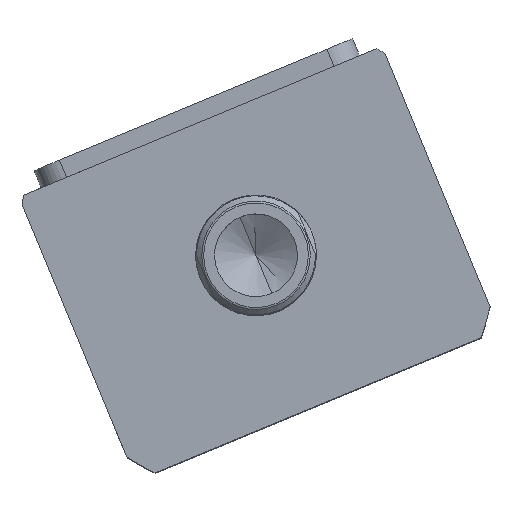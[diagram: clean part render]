
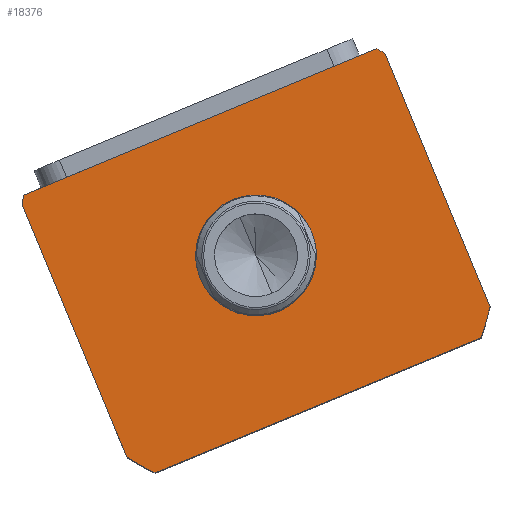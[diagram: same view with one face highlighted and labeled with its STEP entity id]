
A CAD part, top view. The second image highlights one B-rep face of the part: STEP entity #18376.
In plain terms, the highlighted planar face has unit normal (0, 0, 1) as drawn and (0, 0, -1) by its records, which use the part's own axes.
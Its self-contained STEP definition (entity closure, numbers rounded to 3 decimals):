
#214 = ORIENTED_EDGE ( 'NONE', *, *, #1257, .T. ) ;
#465 = FACE_OUTER_BOUND ( 'NONE', #5502, .T. ) ;
#472 = VERTEX_POINT ( 'NONE', #8439 ) ;
#589 = PLANE ( 'NONE',  #7360 ) ;
#685 = CIRCLE ( 'NONE', #1870, 17.5 ) ;
#1050 = AXIS2_PLACEMENT_3D ( 'NONE', #7455, #17644, #8904 ) ;
#1064 = DIRECTION ( 'NONE',  ( 0., -1., 0. ) ) ;
#1067 = CARTESIAN_POINT ( 'NONE',  ( 57., -37.265, 0. ) ) ;
#1170 = VECTOR ( 'NONE', #1064, 1000. ) ;
#1194 = VERTEX_POINT ( 'NONE', #8016 ) ;
#1257 = EDGE_CURVE ( 'NONE', #1194, #2935, #685, .T. ) ;
#1400 = CIRCLE ( 'NONE', #9366, 69.5 ) ;
#1815 = EDGE_CURVE ( 'NONE', #2935, #1194, #9454, .T. ) ;
#1832 = VERTEX_POINT ( 'NONE', #6423 ) ;
#1870 = AXIS2_PLACEMENT_3D ( 'NONE', #6103, #10329, #10650 ) ;
#1896 = EDGE_CURVE ( 'NONE', #1832, #8740, #9919, .T. ) ;
#1944 = ORIENTED_EDGE ( 'NONE', *, *, #1815, .T. ) ;
#2047 = CARTESIAN_POINT ( 'NONE',  ( 0., 2.5, 0. ) ) ;
#2067 = DIRECTION ( 'NONE',  ( 0., 0., 1. ) ) ;
#2362 = CARTESIAN_POINT ( 'NONE',  ( -57., 44.5, 0. ) ) ;
#2935 = VERTEX_POINT ( 'NONE', #6370 ) ;
#3387 = ORIENTED_EDGE ( 'NONE', *, *, #16712, .F. ) ;
#3487 = AXIS2_PLACEMENT_3D ( 'NONE', #6302, #6624, #6877 ) ;
#3754 = DIRECTION ( 'NONE',  ( 0., 1., 0. ) ) ;
#3856 = DIRECTION ( 'NONE',  ( 1., 0., 0. ) ) ;
#4406 = FACE_BOUND ( 'NONE', #9424, .T. ) ;
#4617 = LINE ( 'NONE', #9672, #1170 ) ;
#4628 = ORIENTED_EDGE ( 'NONE', *, *, #7647, .F. ) ;
#4924 = AXIS2_PLACEMENT_3D ( 'NONE', #16667, #7940, #18157 ) ;
#5104 = CIRCLE ( 'NONE', #1050, 69.5 ) ;
#5456 = AXIS2_PLACEMENT_3D ( 'NONE', #2047, #16575, #3856 ) ;
#5502 = EDGE_LOOP ( 'NONE', ( #14974, #10385, #15773, #3387, #17870, #4628, #8946, #17674 ) ) ;
#5910 = EDGE_CURVE ( 'NONE', #472, #9931, #17212, .T. ) ;
#6008 = VERTEX_POINT ( 'NONE', #1067 ) ;
#6103 = CARTESIAN_POINT ( 'NONE',  ( 0., 2.5, 0. ) ) ;
#6238 = DIRECTION ( 'NONE',  ( 1., 0., 0. ) ) ;
#6302 = CARTESIAN_POINT ( 'NONE',  ( 0., 2.5, 0. ) ) ;
#6370 = CARTESIAN_POINT ( 'NONE',  ( -17.5, 2.5, 0. ) ) ;
#6423 = CARTESIAN_POINT ( 'NONE',  ( -57., -37.265, 0. ) ) ;
#6431 = CARTESIAN_POINT ( 'NONE',  ( 0., 2.5, 0. ) ) ;
#6624 = DIRECTION ( 'NONE',  ( 0., 0., 1. ) ) ;
#6639 = CARTESIAN_POINT ( 'NONE',  ( 57., 44.5, 0. ) ) ;
#6877 = DIRECTION ( 'NONE',  ( 1., 0., 0. ) ) ;
#6962 = EDGE_CURVE ( 'NONE', #10399, #472, #1400, .T. ) ;
#7360 = AXIS2_PLACEMENT_3D ( 'NONE', #15129, #2067, #12306 ) ;
#7391 = LINE ( 'NONE', #6639, #14234 ) ;
#7455 = CARTESIAN_POINT ( 'NONE',  ( 0., 2.5, 0. ) ) ;
#7465 = EDGE_CURVE ( 'NONE', #9931, #17891, #10346, .T. ) ;
#7647 = EDGE_CURVE ( 'NONE', #17891, #1832, #4617, .T. ) ;
#7912 = DIRECTION ( 'NONE',  ( 1., 0., 0. ) ) ;
#7940 = DIRECTION ( 'NONE',  ( 0., 0., 1. ) ) ;
#8016 = CARTESIAN_POINT ( 'NONE',  ( 17.5, 2.5, 0. ) ) ;
#8439 = CARTESIAN_POINT ( 'NONE',  ( 55.374, 44.5, 0. ) ) ;
#8459 = CARTESIAN_POINT ( 'NONE',  ( 57., 42.265, 0. ) ) ;
#8740 = VERTEX_POINT ( 'NONE', #18955 ) ;
#8904 = DIRECTION ( 'NONE',  ( 1., 0., 0. ) ) ;
#8946 = ORIENTED_EDGE ( 'NONE', *, *, #7465, .F. ) ;
#9366 = AXIS2_PLACEMENT_3D ( 'NONE', #6431, #16637, #7912 ) ;
#9424 = EDGE_LOOP ( 'NONE', ( #214, #1944 ) ) ;
#9454 = CIRCLE ( 'NONE', #3487, 17.5 ) ;
#9672 = CARTESIAN_POINT ( 'NONE',  ( -57., 44.5, 0. ) ) ;
#9919 = CIRCLE ( 'NONE', #5456, 69.5 ) ;
#9931 = VERTEX_POINT ( 'NONE', #15486 ) ;
#10329 = DIRECTION ( 'NONE',  ( 0., 0., 1. ) ) ;
#10346 = CIRCLE ( 'NONE', #4924, 69.5 ) ;
#10385 = ORIENTED_EDGE ( 'NONE', *, *, #18512, .F. ) ;
#10399 = VERTEX_POINT ( 'NONE', #8459 ) ;
#10519 = CARTESIAN_POINT ( 'NONE',  ( -57., -44.5, 0. ) ) ;
#10650 = DIRECTION ( 'NONE',  ( 1., 0., 0. ) ) ;
#12306 = DIRECTION ( 'NONE',  ( 1., 0., 0. ) ) ;
#12592 = DIRECTION ( 'NONE',  ( -1., 0., 0. ) ) ;
#13316 = VECTOR ( 'NONE', #12592, 1000. ) ;
#13535 = LINE ( 'NONE', #10519, #16956 ) ;
#14234 = VECTOR ( 'NONE', #3754, 1000. ) ;
#14274 = VERTEX_POINT ( 'NONE', #18994 ) ;
#14416 = EDGE_CURVE ( 'NONE', #14274, #6008, #5104, .T. ) ;
#14974 = ORIENTED_EDGE ( 'NONE', *, *, #6962, .F. ) ;
#15129 = CARTESIAN_POINT ( 'NONE',  ( 0., 0., 0. ) ) ;
#15223 = CARTESIAN_POINT ( 'NONE',  ( -57., 42.265, 0. ) ) ;
#15486 = CARTESIAN_POINT ( 'NONE',  ( -55.374, 44.5, 0. ) ) ;
#15773 = ORIENTED_EDGE ( 'NONE', *, *, #14416, .F. ) ;
#16575 = DIRECTION ( 'NONE',  ( 0., 0., 1. ) ) ;
#16637 = DIRECTION ( 'NONE',  ( 0., 0., 1. ) ) ;
#16667 = CARTESIAN_POINT ( 'NONE',  ( 0., 2.5, 0. ) ) ;
#16712 = EDGE_CURVE ( 'NONE', #8740, #14274, #13535, .T. ) ;
#16956 = VECTOR ( 'NONE', #6238, 1000. ) ;
#17212 = LINE ( 'NONE', #2362, #13316 ) ;
#17644 = DIRECTION ( 'NONE',  ( 0., 0., 1. ) ) ;
#17674 = ORIENTED_EDGE ( 'NONE', *, *, #5910, .F. ) ;
#17870 = ORIENTED_EDGE ( 'NONE', *, *, #1896, .F. ) ;
#17891 = VERTEX_POINT ( 'NONE', #15223 ) ;
#18157 = DIRECTION ( 'NONE',  ( 1., 0., 0. ) ) ;
#18376 = ADVANCED_FACE ( 'NONE', ( #4406, #465 ), #589, .F. ) ;
#18512 = EDGE_CURVE ( 'NONE', #6008, #10399, #7391, .T. ) ;
#18955 = CARTESIAN_POINT ( 'NONE',  ( -51.198, -44.5, 0. ) ) ;
#18994 = CARTESIAN_POINT ( 'NONE',  ( 51.198, -44.5, 0. ) ) ;
